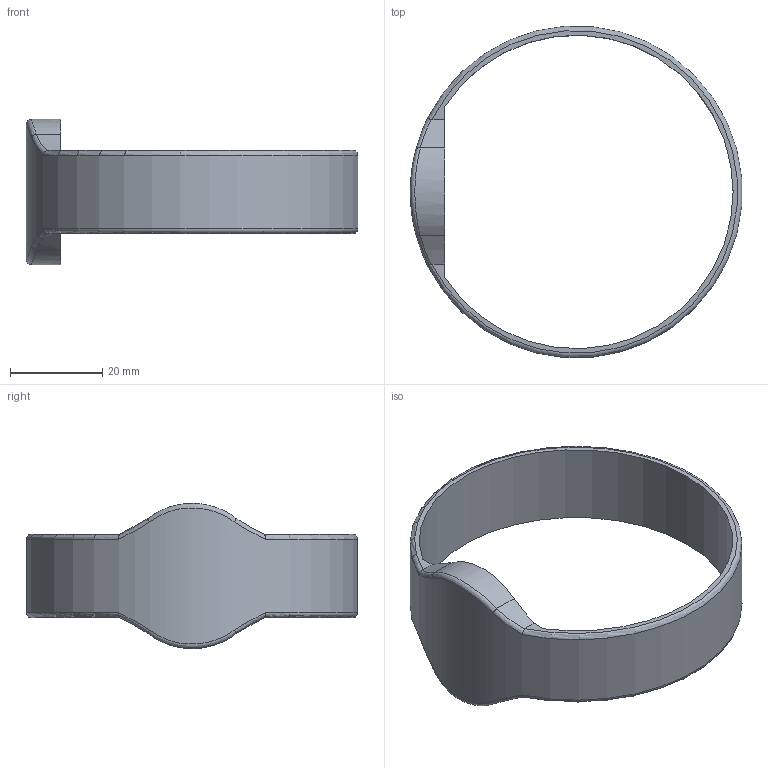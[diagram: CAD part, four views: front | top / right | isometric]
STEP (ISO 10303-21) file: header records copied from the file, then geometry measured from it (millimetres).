
FILE_DESCRIPTION(/* description */ ('Alibre Inc.'),/* implementation_level */ '2;1');
FILE_NAME(/* name */ 'export0',/* time_stamp */ '2013-07-17T08:44:58-06:00',/* author */ (''),/* organization */ (''),/* preprocessor_version */ 'ST-DEVELOPER v14',/* originating_system */ 'Alibre',/* authorisation */ '');
FILE_SCHEMA (('ALIBRE_SCHEMA','CONFIG_CONTROL_DESIGN'));
Length unit declared in the file: centimetre
Products named in the file (1): ID_1
Bounding box: 71.86 x 71.8 x 31.5 mm (x, y, z)
Volume: 12096.7 mm3; surface area: 9404.8 mm2
Topology: 1 solids, 1 shells, 19 faces, 59 edges, 40 vertices
Faces by surface type: bspline 10, cylinder 4, plane 3, torus 2
Full cylindrical faces by diameter (mm): 72 x1
Entity records: 3633 total; most frequent: CARTESIAN_POINT 2305, ORIENTED_EDGE 116, REFERENCEDEPENDENTUV 86, CONSTRAINTPAIRUV 83, DIRECTION 78, EDGE_CURVE 58, PERSISTANTTOPOLOGYATTRIBUTE 55, REFERENCEPOINTUV 50
